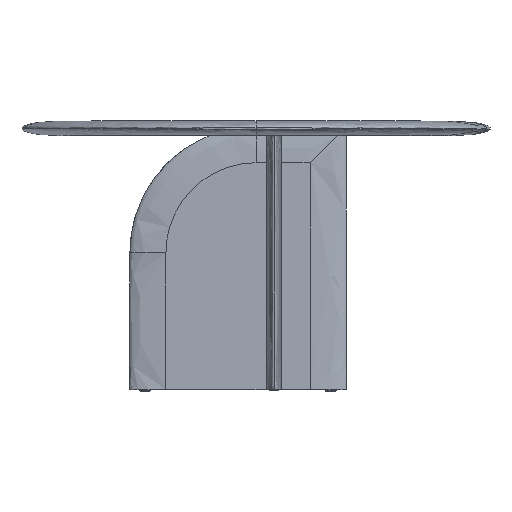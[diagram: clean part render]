
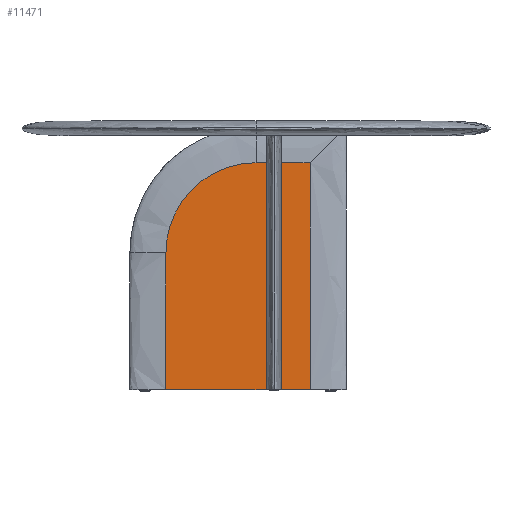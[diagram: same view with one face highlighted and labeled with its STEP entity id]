
A CAD part, top view. The second image highlights one B-rep face of the part: STEP entity #11471.
In plain terms, the highlighted planar face has unit normal (0, 0, 1).
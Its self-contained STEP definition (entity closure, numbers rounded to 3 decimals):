
#1 = CARTESIAN_POINT ( 'NONE',  ( 1344.213, 604.709, -280. ) ) ;
#238 = VERTEX_POINT ( 'NONE', #423 ) ;
#321 = CIRCLE ( 'NONE', #9052, 5. ) ;
#423 = CARTESIAN_POINT ( 'NONE',  ( 1605., 0., -280. ) ) ;
#584 = EDGE_LOOP ( 'NONE', ( #11001, #9839, #2978, #8415, #1746, #11018, #1640 ) ) ;
#644 = VERTEX_POINT ( 'NONE', #7036 ) ;
#668 = CARTESIAN_POINT ( 'NONE',  ( 1205., 396.365, -280. ) ) ;
#745 = CARTESIAN_POINT ( 'NONE',  ( 1500., 630., -280. ) ) ;
#768 = ORIENTED_EDGE ( 'NONE', *, *, #7798, .T. ) ;
#771 = DIRECTION ( 'NONE',  ( -1., 0., 0. ) ) ;
#845 = CARTESIAN_POINT ( 'NONE',  ( 1500., 530., -280. ) ) ;
#852 = CARTESIAN_POINT ( 'NONE',  ( 1446.818, 630., -280. ) ) ;
#911 = CARTESIAN_POINT ( 'NONE',  ( 1230.292, 490.788, -280. ) ) ;
#1217 = VERTEX_POINT ( 'NONE', #845 ) ;
#1532 = EDGE_CURVE ( 'NONE', #1217, #644, #321, .T. ) ;
#1587 = CARTESIAN_POINT ( 'NONE',  ( 1510., 630., -280. ) ) ;
#1608 = CARTESIAN_POINT ( 'NONE',  ( 1205., 253.333, -280. ) ) ;
#1638 = CARTESIAN_POINT ( 'NONE',  ( 1455., 630., -280. ) ) ;
#1640 = ORIENTED_EDGE ( 'NONE', *, *, #7162, .F. ) ;
#1722 = AXIS2_PLACEMENT_3D ( 'NONE', #4840, #10355, #2112 ) ;
#1746 = ORIENTED_EDGE ( 'NONE', *, *, #11156, .T. ) ;
#1885 = CARTESIAN_POINT ( 'NONE',  ( 1205., 380., -280. ) ) ;
#1886 = CARTESIAN_POINT ( 'NONE',  ( 1438.663, 629.598, -280. ) ) ;
#1926 = CARTESIAN_POINT ( 'NONE',  ( 1505., 530., -280. ) ) ;
#1928 = CARTESIAN_POINT ( 'NONE',  ( 1455., 630., -280. ) ) ;
#2037 = CARTESIAN_POINT ( 'NONE',  ( 1605., 630., -280. ) ) ;
#2112 = DIRECTION ( 'NONE',  ( -1., 0., 0. ) ) ;
#2154 = CARTESIAN_POINT ( 'NONE',  ( 0., 0., -280. ) ) ;
#2681 = CARTESIAN_POINT ( 'NONE',  ( 1302.425, 578.707, -280. ) ) ;
#2978 = ORIENTED_EDGE ( 'NONE', *, *, #6342, .T. ) ;
#3025 = LINE ( 'NONE', #6715, #7577 ) ;
#3149 = DIRECTION ( 'NONE',  ( -1., 0., 0. ) ) ;
#3472 = CARTESIAN_POINT ( 'NONE',  ( 1390.209, 621.588, -280. ) ) ;
#3525 = CARTESIAN_POINT ( 'NONE',  ( 1206.606, 412.622, -280. ) ) ;
#3551 = EDGE_CURVE ( 'NONE', #3814, #7702, #10051, .T. ) ;
#3683 = DIRECTION ( 'NONE',  ( 0., 0., -1. ) ) ;
#3814 = VERTEX_POINT ( 'NONE', #2037 ) ;
#4000 = EDGE_CURVE ( 'NONE', #7806, #6200, #11207, .T. ) ;
#4029 = PLANE ( 'NONE',  #4796 ) ;
#4037 = CIRCLE ( 'NONE', #10815, 5. ) ;
#4156 = FACE_BOUND ( 'NONE', #6663, .T. ) ;
#4502 = CARTESIAN_POINT ( 'NONE',  ( 1374.576, 616.851, -280. ) ) ;
#4662 = CARTESIAN_POINT ( 'NONE',  ( 1105., 0., -280. ) ) ;
#4796 = AXIS2_PLACEMENT_3D ( 'NONE', #2154, #9672, #9498 ) ;
#4840 = CARTESIAN_POINT ( 'NONE',  ( 1505., 630., -280. ) ) ;
#5009 = B_SPLINE_CURVE_WITH_KNOTS ( 'NONE', 3,
 ( #8186, #1608, #6236, #11734 ),
 .UNSPECIFIED., .F., .F.,
 ( 4, 4 ),
 ( 0., 1. ),
 .UNSPECIFIED. ) ;
#5354 = CARTESIAN_POINT ( 'NONE',  ( 1217.768, 460.554, -280. ) ) ;
#5422 = VERTEX_POINT ( 'NONE', #8753 ) ;
#5480 = CARTESIAN_POINT ( 'NONE',  ( 1256.294, 532.575, -280. ) ) ;
#5537 = CARTESIAN_POINT ( 'NONE',  ( 1422.405, 627.992, -280. ) ) ;
#5658 = B_SPLINE_CURVE_WITH_KNOTS ( 'NONE', 3,
 ( #6591, #9339, #9509, #1928 ),
 .UNSPECIFIED., .F., .F.,
 ( 4, 4 ),
 ( 0.82, 1. ),
 .UNSPECIFIED. ) ;
#5692 = LINE ( 'NONE', #4662, #11617 ) ;
#6200 = VERTEX_POINT ( 'NONE', #1885 ) ;
#6236 = CARTESIAN_POINT ( 'NONE',  ( 1205., 126.667, -280. ) ) ;
#6342 = EDGE_CURVE ( 'NONE', #9617, #7806, #5658, .T. ) ;
#6356 = EDGE_CURVE ( 'NONE', #5422, #238, #5692, .T. ) ;
#6377 = CARTESIAN_POINT ( 'NONE',  ( 1414.302, 626.787, -280. ) ) ;
#6435 = CARTESIAN_POINT ( 'NONE',  ( 1289.793, 568.346, -280. ) ) ;
#6528 = DIRECTION ( 'NONE',  ( 0., -1., 0. ) ) ;
#6568 = CIRCLE ( 'NONE', #1722, 5. ) ;
#6591 = CARTESIAN_POINT ( 'NONE',  ( 1500., 630., -280. ) ) ;
#6663 = EDGE_LOOP ( 'NONE', ( #768, #11229 ) ) ;
#6715 = CARTESIAN_POINT ( 'NONE',  ( 1605., 730.6, -280. ) ) ;
#7036 = CARTESIAN_POINT ( 'NONE',  ( 1510., 530., -280. ) ) ;
#7162 = EDGE_CURVE ( 'NONE', #3814, #238, #3025, .T. ) ;
#7232 = CARTESIAN_POINT ( 'NONE',  ( 1366.887, 614.1, -280. ) ) ;
#7291 = CARTESIAN_POINT ( 'NONE',  ( 1205., 380., -280. ) ) ;
#7572 = CARTESIAN_POINT ( 'NONE',  ( 1455., 630., -280. ) ) ;
#7577 = VECTOR ( 'NONE', #6528, 1000. ) ;
#7702 = VERTEX_POINT ( 'NONE', #11028 ) ;
#7798 = EDGE_CURVE ( 'NONE', #644, #1217, #4037, .T. ) ;
#7806 = VERTEX_POINT ( 'NONE', #7572 ) ;
#8041 = CARTESIAN_POINT ( 'NONE',  ( 1573.333, 630., -280. ) ) ;
#8156 = CARTESIAN_POINT ( 'NONE',  ( 1329.807, 597.003, -280. ) ) ;
#8186 = CARTESIAN_POINT ( 'NONE',  ( 1205., 380., -280. ) ) ;
#8415 = ORIENTED_EDGE ( 'NONE', *, *, #4000, .T. ) ;
#8753 = CARTESIAN_POINT ( 'NONE',  ( 1205., 0., -280. ) ) ;
#8877 = EDGE_CURVE ( 'NONE', #7702, #9617, #6568, .T. ) ;
#9052 = AXIS2_PLACEMENT_3D ( 'NONE', #1926, #3683, #771 ) ;
#9128 = CARTESIAN_POINT ( 'NONE',  ( 1541.667, 630., -280. ) ) ;
#9240 = CARTESIAN_POINT ( 'NONE',  ( 1266.654, 545.207, -280. ) ) ;
#9339 = CARTESIAN_POINT ( 'NONE',  ( 1485., 630., -280. ) ) ;
#9441 = FACE_OUTER_BOUND ( 'NONE', #584, .T. ) ;
#9498 = DIRECTION ( 'NONE',  ( -1., 0., 0. ) ) ;
#9509 = CARTESIAN_POINT ( 'NONE',  ( 1470., 630., -280. ) ) ;
#9617 = VERTEX_POINT ( 'NONE', #745 ) ;
#9672 = DIRECTION ( 'NONE',  ( 0., 0., -1. ) ) ;
#9839 = ORIENTED_EDGE ( 'NONE', *, *, #8877, .T. ) ;
#9904 = CARTESIAN_POINT ( 'NONE',  ( 1605., 630., -280. ) ) ;
#9956 = CARTESIAN_POINT ( 'NONE',  ( 1398.154, 623.575, -280. ) ) ;
#10016 = CARTESIAN_POINT ( 'NONE',  ( 1237.997, 505.193, -280. ) ) ;
#10051 = B_SPLINE_CURVE_WITH_KNOTS ( 'NONE', 3,
 ( #9904, #8041, #9128, #1587 ),
 .UNSPECIFIED., .F., .F.,
 ( 4, 4 ),
 ( 0.4, 0.78 ),
 .UNSPECIFIED. ) ;
#10353 = DIRECTION ( 'NONE',  ( 0., 0., -1. ) ) ;
#10355 = DIRECTION ( 'NONE',  ( 0., 0., -1. ) ) ;
#10815 = AXIS2_PLACEMENT_3D ( 'NONE', #11446, #10353, #3149 ) ;
#11001 = ORIENTED_EDGE ( 'NONE', *, *, #3551, .T. ) ;
#11018 = ORIENTED_EDGE ( 'NONE', *, *, #6356, .T. ) ;
#11028 = CARTESIAN_POINT ( 'NONE',  ( 1510., 630., -280. ) ) ;
#11141 = DIRECTION ( 'NONE',  ( 1., 0., 0. ) ) ;
#11156 = EDGE_CURVE ( 'NONE', #6200, #5422, #5009, .T. ) ;
#11207 = B_SPLINE_CURVE_WITH_KNOTS ( 'NONE', 3,
 ( #1638, #852, #1886, #5537, #6377, #9956, #3472, #4502, #7232, #1, #8156, #2681, #6435, #9240, #5480, #10016, #911, #5354, #11770, #3525, #668, #7291 ),
 .UNSPECIFIED., .F., .F.,
 ( 4, 2, 2, 2, 2, 2, 2, 2, 2, 2, 4 ),
 ( 0., 0.062, 0.125, 0.187, 0.25, 0.375, 0.5, 0.625, 0.75, 0.875, 1. ),
 .UNSPECIFIED. ) ;
#11229 = ORIENTED_EDGE ( 'NONE', *, *, #1532, .T. ) ;
#11446 = CARTESIAN_POINT ( 'NONE',  ( 1505., 530., -280. ) ) ;
#11471 = ADVANCED_FACE ( 'NONE', ( #4156, #9441 ), #4029, .F. ) ;
#11617 = VECTOR ( 'NONE', #11141, 1000. ) ;
#11734 = CARTESIAN_POINT ( 'NONE',  ( 1205., 0., -280. ) ) ;
#11770 = CARTESIAN_POINT ( 'NONE',  ( 1213.031, 444.921, -280. ) ) ;
